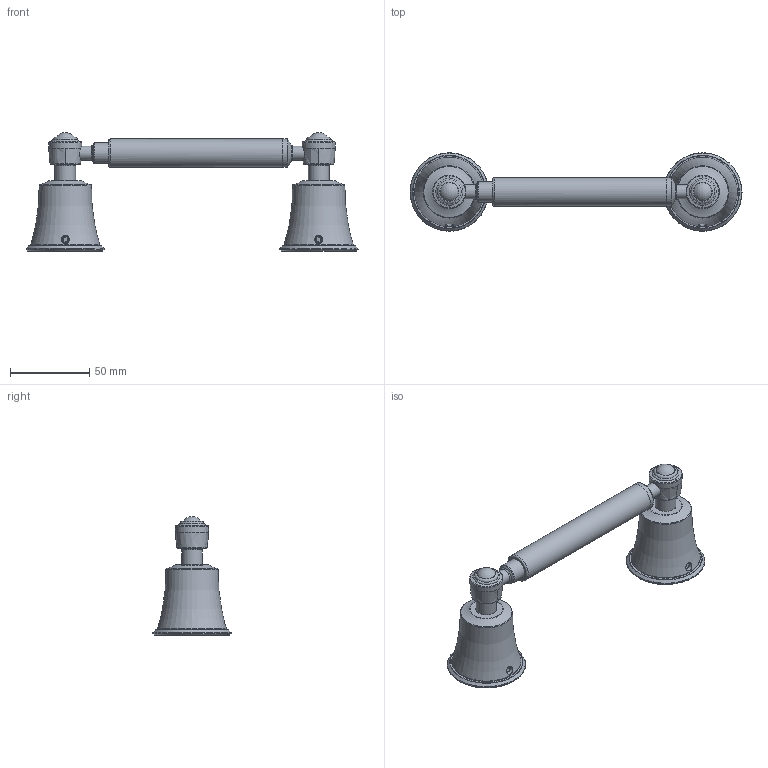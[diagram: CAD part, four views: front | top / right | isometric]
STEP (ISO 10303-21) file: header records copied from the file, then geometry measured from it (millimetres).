
FILE_DESCRIPTION(/* description */ (''),/* implementation_level */ '2;1');
FILE_NAME(/* name */ 'c:\worker\convert-fusion-r05\tmp\job-1\13\output\files\34f75c85-dc79-434b-967b-5bfba824eeb4\e56ab815-7c86-4ffb-a86a-7a32a8b81229.stp',/* time_stamp */ '2019-07-10T07:08:16+00:00',/* author */ (''),/* organization */ (''),/* preprocessor_version */ 'ST-DEVELOPER v18',/* originating_system */ 'Autodesk Translation Framework v8.2.0.1029',/* authorisation */ '');
FILE_SCHEMA (('AUTOMOTIVE_DESIGN { 1 0 10303 214 3 1 1 }'));
Length unit declared in the file: millimetre
Products named in the file (1): !AL53510
Bounding box: 209.59 x 49.58 x 75 mm (x, y, z)
Volume: 141633.9 mm3; surface area: 35009 mm2
Topology: 10 solids, 10 shells, 125 faces, 315 edges, 220 vertices
Faces by surface type: plane 42, torus 40, cylinder 17, cone 16, bspline 8, sphere 2
Full cylindrical faces by diameter (mm): 5 x2, 5.2 x2, 9 x2, 9.6 x2, 13 x4, 13.2 x2, 15.6 x1, 18 x2
Entity records: 4241 total; most frequent: CARTESIAN_POINT 983, DIRECTION 777, ORIENTED_EDGE 630, AXIS2_PLACEMENT_3D 356, EDGE_CURVE 315, CIRCLE 238, VERTEX_POINT 220, EDGE_LOOP 137
